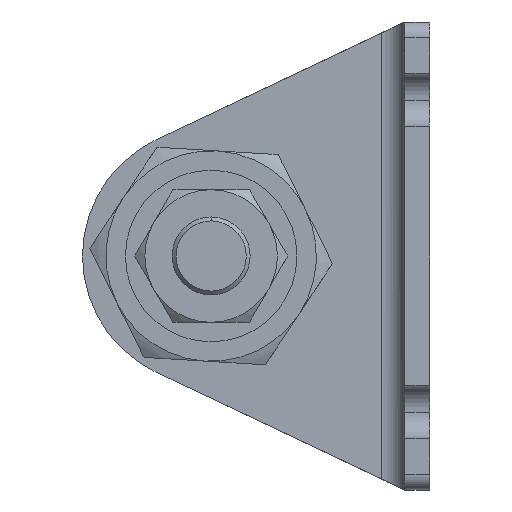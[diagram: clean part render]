
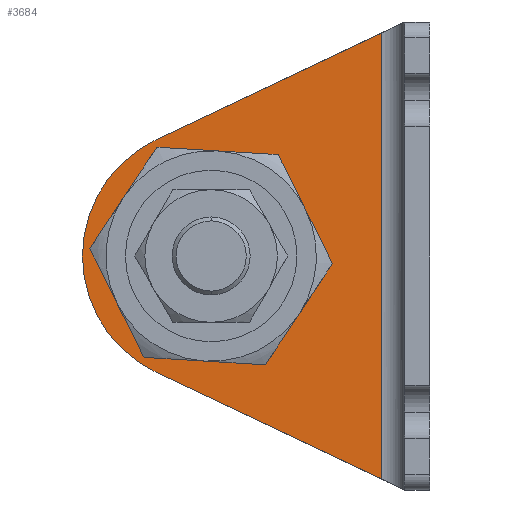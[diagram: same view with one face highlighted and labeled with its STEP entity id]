
A CAD part, left-side view. The second image highlights one B-rep face of the part: STEP entity #3684.
In plain terms, the highlighted planar face has unit normal (-1, 0, 0) as drawn and (1, 0, 0) by its records, which use the part's own axes.
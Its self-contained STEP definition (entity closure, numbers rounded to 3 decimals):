
#3 = VERTEX_POINT ( 'NONE', #927 ) ;
#25 = VERTEX_POINT ( 'NONE', #2819 ) ;
#32 = ORIENTED_EDGE ( 'NONE', *, *, #155, .T. ) ;
#95 = ORIENTED_EDGE ( 'NONE', *, *, #3965, .T. ) ;
#134 = CARTESIAN_POINT ( 'NONE',  ( 3.2, 3.2, -60. ) ) ;
#155 = EDGE_CURVE ( 'NONE', #3, #25, #606, .T. ) ;
#240 = PLANE ( 'NONE',  #2084 ) ;
#285 = CARTESIAN_POINT ( 'NONE',  ( 3.2, 35.062, -44.913 ) ) ;
#539 = LINE ( 'NONE', #134, #1694 ) ;
#606 = LINE ( 'NONE', #1907, #3755 ) ;
#643 = ORIENTED_EDGE ( 'NONE', *, *, #710, .F. ) ;
#689 = DIRECTION ( 'NONE',  ( 0., 1., 0. ) ) ;
#710 = EDGE_CURVE ( 'NONE', #952, #2464, #1588, .T. ) ;
#720 = DIRECTION ( 'NONE',  ( 1., 0., 0. ) ) ;
#855 = CARTESIAN_POINT ( 'NONE',  ( 3.2, 3.2, -60. ) ) ;
#858 = EDGE_LOOP ( 'NONE', ( #2446, #32, #95, #2953, #1977 ) ) ;
#927 = CARTESIAN_POINT ( 'NONE',  ( 3.2, 6.2, -1.421 ) ) ;
#952 = VERTEX_POINT ( 'NONE', #1173 ) ;
#1149 = LINE ( 'NONE', #3892, #3230 ) ;
#1173 = CARTESIAN_POINT ( 'NONE',  ( 3.2, 16.5, -30. ) ) ;
#1437 = EDGE_CURVE ( 'NONE', #3113, #2856, #3142, .T. ) ;
#1536 = DIRECTION ( 'NONE',  ( 1., 0., 0. ) ) ;
#1588 = CIRCLE ( 'NONE', #2553, 11.5 ) ;
#1608 = DIRECTION ( 'NONE',  ( 0., 0., -1. ) ) ;
#1612 = AXIS2_PLACEMENT_3D ( 'NONE', #2107, #1757, #3318 ) ;
#1694 = VECTOR ( 'NONE', #3355, 1000. ) ;
#1757 = DIRECTION ( 'NONE',  ( 1., 0., 0. ) ) ;
#1869 = EDGE_CURVE ( 'NONE', #2464, #952, #2705, .T. ) ;
#1907 = CARTESIAN_POINT ( 'NONE',  ( 3.2, 6.2, -60. ) ) ;
#1969 = VERTEX_POINT ( 'NONE', #285 ) ;
#1977 = ORIENTED_EDGE ( 'NONE', *, *, #1437, .T. ) ;
#1991 = CARTESIAN_POINT ( 'NONE',  ( 3.2, 28., -30. ) ) ;
#2084 = AXIS2_PLACEMENT_3D ( 'NONE', #855, #3066, #3383 ) ;
#2107 = CARTESIAN_POINT ( 'NONE',  ( 3.2, 28., -30. ) ) ;
#2121 = CARTESIAN_POINT ( 'NONE',  ( 3.2, 44.5, -30. ) ) ;
#2234 = ORIENTED_EDGE ( 'NONE', *, *, #1869, .F. ) ;
#2446 = ORIENTED_EDGE ( 'NONE', *, *, #2686, .F. ) ;
#2464 = VERTEX_POINT ( 'NONE', #3579 ) ;
#2483 = DIRECTION ( 'NONE',  ( 0., 1., 0. ) ) ;
#2494 = AXIS2_PLACEMENT_3D ( 'NONE', #1991, #720, #3242 ) ;
#2553 = AXIS2_PLACEMENT_3D ( 'NONE', #3461, #3490, #689 ) ;
#2686 = EDGE_CURVE ( 'NONE', #3, #2856, #1149, .T. ) ;
#2705 = CIRCLE ( 'NONE', #3023, 11.5 ) ;
#2734 = CARTESIAN_POINT ( 'NONE',  ( 3.2, 35.062, -15.087 ) ) ;
#2802 = CARTESIAN_POINT ( 'NONE',  ( 3.2, 28., -30. ) ) ;
#2819 = CARTESIAN_POINT ( 'NONE',  ( 3.2, 6.2, -58.579 ) ) ;
#2853 = FACE_BOUND ( 'NONE', #2935, .T. ) ;
#2856 = VERTEX_POINT ( 'NONE', #2734 ) ;
#2877 = EDGE_CURVE ( 'NONE', #1969, #3113, #3082, .T. ) ;
#2935 = EDGE_LOOP ( 'NONE', ( #2234, #643 ) ) ;
#2953 = ORIENTED_EDGE ( 'NONE', *, *, #2877, .T. ) ;
#3023 = AXIS2_PLACEMENT_3D ( 'NONE', #2802, #1536, #2483 ) ;
#3066 = DIRECTION ( 'NONE',  ( 1., 0., 0. ) ) ;
#3082 = CIRCLE ( 'NONE', #1612, 16.5 ) ;
#3113 = VERTEX_POINT ( 'NONE', #2121 ) ;
#3142 = CIRCLE ( 'NONE', #2494, 16.5 ) ;
#3230 = VECTOR ( 'NONE', #3277, 1000. ) ;
#3242 = DIRECTION ( 'NONE',  ( 0., 1., 0. ) ) ;
#3277 = DIRECTION ( 'NONE',  ( 0., 0.904, -0.428 ) ) ;
#3318 = DIRECTION ( 'NONE',  ( 0., 1., 0. ) ) ;
#3355 = DIRECTION ( 'NONE',  ( 0., 0.904, 0.428 ) ) ;
#3383 = DIRECTION ( 'NONE',  ( 0., 1., 0. ) ) ;
#3461 = CARTESIAN_POINT ( 'NONE',  ( 3.2, 28., -30. ) ) ;
#3490 = DIRECTION ( 'NONE',  ( 1., 0., 0. ) ) ;
#3579 = CARTESIAN_POINT ( 'NONE',  ( 3.2, 39.5, -30. ) ) ;
#3680 = FACE_OUTER_BOUND ( 'NONE', #858, .T. ) ;
#3684 = ADVANCED_FACE ( 'NONE', ( #3680, #2853 ), #240, .T. ) ;
#3755 = VECTOR ( 'NONE', #1608, 1000. ) ;
#3892 = CARTESIAN_POINT ( 'NONE',  ( 3.2, 26.408, -10.99 ) ) ;
#3965 = EDGE_CURVE ( 'NONE', #25, #1969, #539, .T. ) ;
